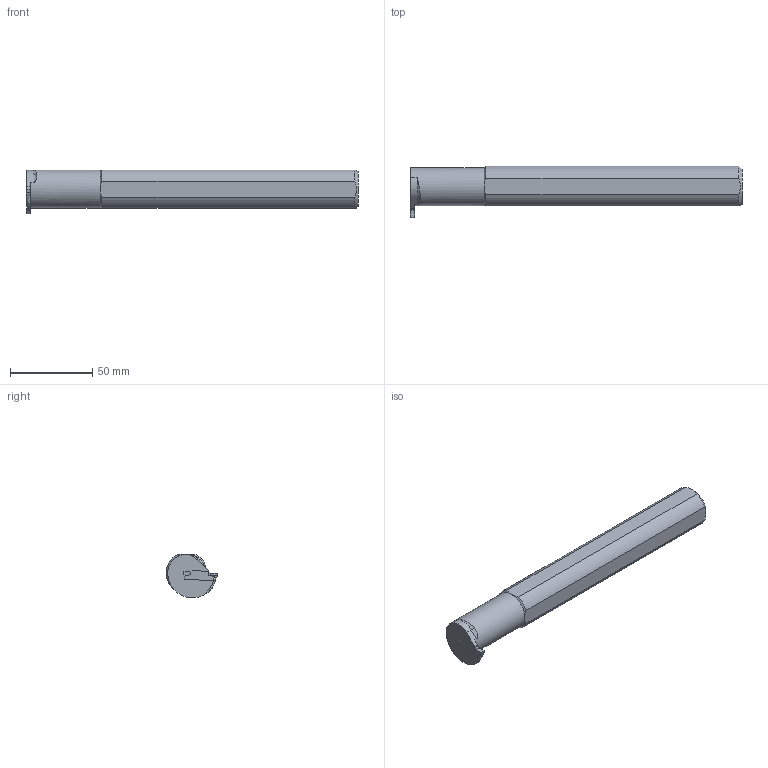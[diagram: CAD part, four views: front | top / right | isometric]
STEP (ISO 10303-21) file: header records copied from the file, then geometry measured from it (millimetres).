
FILE_DESCRIPTION(/* description */ (''),/* implementation_level */ '2;1');
FILE_NAME(/* name */ 'MGIVR3125-3-HAAS.stp',/* time_stamp */ '2021-10-18T09:10:54+09:00',/* author */ (''),/* organization */ (''),/* preprocessor_version */ 'ST-DEVELOPER v16',/* originating_system */ 'SIEMENS PLM Software NX 10.0',/* authorisation */ '');
FILE_SCHEMA (('AUTOMOTIVE_DESIGN { 1 0 10303 214 3 1 1 1 }'));
Length unit declared in the file: millimetre
Products named in the file (1): model1
Bounding box: 201.44 x 31.4 x 26.49 mm (x, y, z)
Volume: 92623 mm3; surface area: 16855.9 mm2
Topology: 2 solids, 2 shells, 54 faces, 140 edges, 86 vertices
Faces by surface type: plane 34, cylinder 8, cone 6, bspline 4, torus 2
Full cylindrical faces by diameter (mm): 1.6 x1, 23 x1
Entity records: 1968 total; most frequent: CARTESIAN_POINT 740, ORIENTED_EDGE 254, DIRECTION 226, EDGE_CURVE 127, VERTEX_POINT 83, LINE 80, VECTOR 80, AXIS2_PLACEMENT_3D 73
